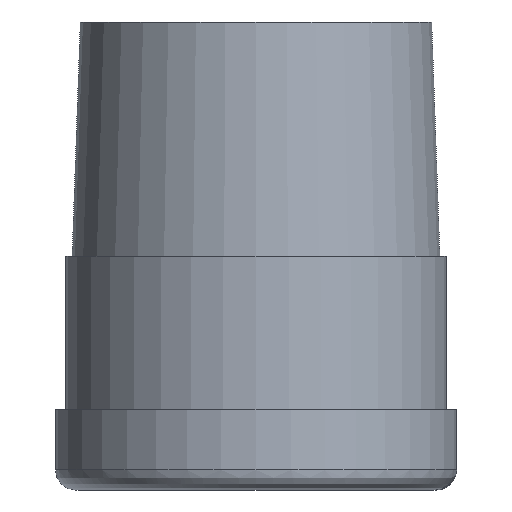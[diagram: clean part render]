
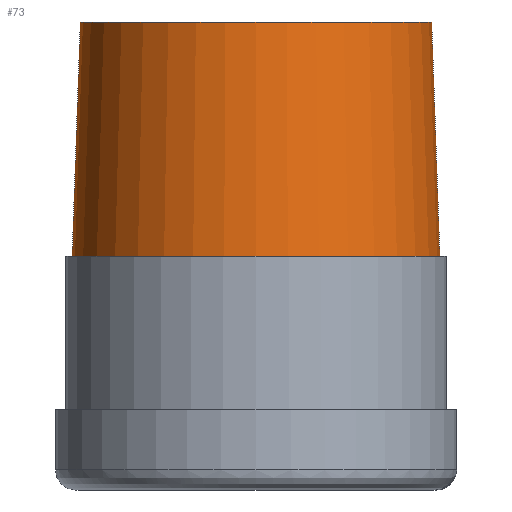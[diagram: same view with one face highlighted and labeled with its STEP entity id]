
A CAD part, front view. The second image highlights one B-rep face of the part: STEP entity #73.
In plain terms, the highlighted free-form (B-spline) face has degree [2, 1] with [9, 2] control points.
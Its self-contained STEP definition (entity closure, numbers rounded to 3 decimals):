
#2=CARTESIAN_POINT('',(1306.453,972.773,17.5));
#3=CARTESIAN_POINT('',(1306.453,986.523,17.5));
#4=CARTESIAN_POINT('',(1292.703,986.523,17.5));
#5=CARTESIAN_POINT('',(1278.953,986.523,17.5));
#6=CARTESIAN_POINT('',(1278.953,972.773,17.5));
#7=CARTESIAN_POINT('',(1278.953,959.023,17.5));
#8=CARTESIAN_POINT('',(1292.703,959.023,17.5));
#9=CARTESIAN_POINT('',(1306.453,959.023,17.5));
#10=CARTESIAN_POINT('',(1306.453,972.773,17.5));
#11=CARTESIAN_POINT('',(1305.842,972.773,35.));
#12=CARTESIAN_POINT('',(1305.842,985.912,35.));
#13=CARTESIAN_POINT('',(1292.703,985.912,35.));
#14=CARTESIAN_POINT('',(1279.564,985.912,35.));
#15=CARTESIAN_POINT('',(1279.564,972.773,35.));
#16=CARTESIAN_POINT('',(1279.564,959.634,35.));
#17=CARTESIAN_POINT('',(1292.703,959.634,35.));
#18=CARTESIAN_POINT('',(1305.842,959.634,35.));
#19=CARTESIAN_POINT('',(1305.842,972.773,35.));
#27=(BOUNDED_SURFACE()B_SPLINE_SURFACE(2,1,((#2,#11),(#3,#12),(#4,#13),(#5,#14),(#6,#15),(#7,#16),(#8,#17),(#9,#18),(#10,#19)),.UNSPECIFIED.,.T.,.F.,.U.)B_SPLINE_SURFACE_WITH_KNOTS((3,2,2,2,3),(2,2),(0.0,0.25,0.5,0.75,1.0),(0.,17.511),.UNSPECIFIED.)GEOMETRIC_REPRESENTATION_ITEM()RATIONAL_B_SPLINE_SURFACE(((1.0,1.0),(0.707,0.707),(1.0,1.0),(0.707,0.707),(1.0,1.0),(0.707,0.707),(1.0,1.0),(0.707,0.707),(1.0,1.0)))REPRESENTATION_ITEM('')SURFACE());
#28=CARTESIAN_POINT('',(1279.564,972.773,35.0));
#29=VERTEX_POINT('',#28);
#30=CARTESIAN_POINT('',(1305.842,972.773,35.0));
#31=VERTEX_POINT('',#30);
#32=CARTESIAN_POINT('',(1292.703,972.773,35.0));
#33=DIRECTION('',(0.0,0.0,1.0));
#34=DIRECTION('',(1.0,0.0,0.0));
#35=AXIS2_PLACEMENT_3D('',#32,#33,#34);
#36=CIRCLE('',#35,13.139);
#37=EDGE_CURVE('',#29,#31,#36,.T.);
#38=ORIENTED_EDGE('',*,*,#37,.F.);
#39=CARTESIAN_POINT('',(1292.703,972.773,35.0));
#40=DIRECTION('',(0.0,0.0,1.0));
#41=DIRECTION('',(1.0,0.0,0.0));
#42=AXIS2_PLACEMENT_3D('',#39,#40,#41);
#43=CIRCLE('',#42,13.139);
#44=EDGE_CURVE('',#31,#29,#43,.T.);
#45=ORIENTED_EDGE('',*,*,#44,.F.);
#46=CARTESIAN_POINT('',(1306.453,972.773,17.5));
#47=VERTEX_POINT('',#46);
#48=CARTESIAN_POINT('',(1306.453,972.773,17.5));
#49=DIRECTION('',(-0.035,0.0,0.999));
#50=VECTOR('',#49,17.511);
#51=LINE('',#48,#50);
#52=EDGE_CURVE('',#47,#31,#51,.T.);
#53=ORIENTED_EDGE('',*,*,#52,.F.);
#54=CARTESIAN_POINT('',(1278.953,972.773,17.5));
#55=VERTEX_POINT('',#54);
#56=CARTESIAN_POINT('',(1292.703,972.773,17.5));
#57=DIRECTION('',(0.0,0.0,1.0));
#58=DIRECTION('',(1.0,0.0,0.0));
#59=AXIS2_PLACEMENT_3D('',#56,#57,#58);
#60=CIRCLE('',#59,13.75);
#61=EDGE_CURVE('',#47,#55,#60,.T.);
#62=ORIENTED_EDGE('',*,*,#61,.T.);
#63=CARTESIAN_POINT('',(1292.703,972.773,17.5));
#64=DIRECTION('',(0.0,0.0,1.0));
#65=DIRECTION('',(1.0,0.0,0.0));
#66=AXIS2_PLACEMENT_3D('',#63,#64,#65);
#67=CIRCLE('',#66,13.75);
#68=EDGE_CURVE('',#55,#47,#67,.T.);
#69=ORIENTED_EDGE('',*,*,#68,.T.);
#70=ORIENTED_EDGE('',*,*,#52,.T.);
#71=EDGE_LOOP('',(#38,#45,#53,#62,#69,#70));
#72=FACE_OUTER_BOUND('',#71,.T.);
#73=ADVANCED_FACE('',(#72),#27,.T.);
